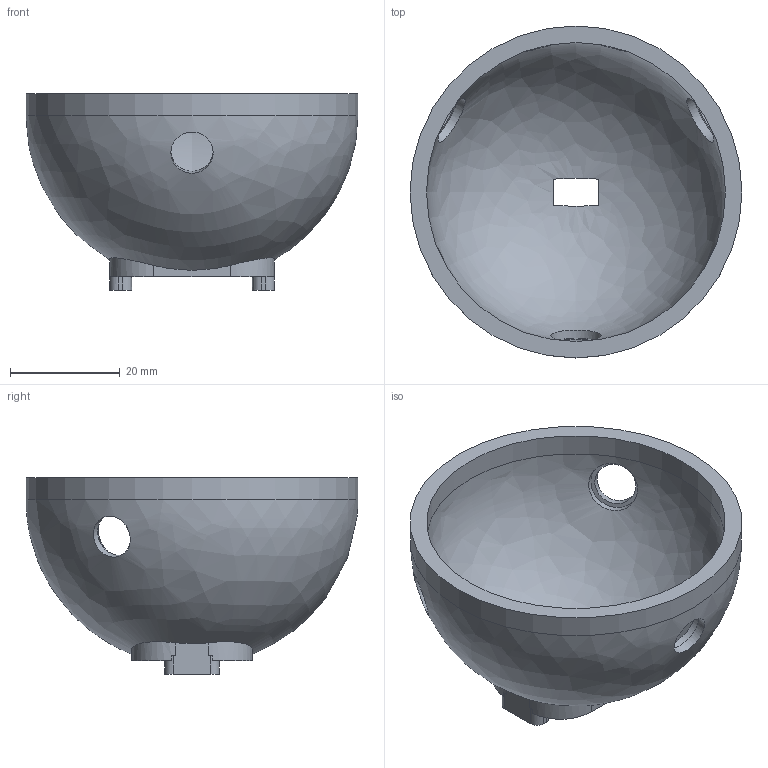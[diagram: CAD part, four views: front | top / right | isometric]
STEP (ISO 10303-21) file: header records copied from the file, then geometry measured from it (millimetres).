
FILE_DESCRIPTION(('Open CASCADE Model'),'2;1');
FILE_NAME('Open CASCADE Shape Model','2026-05-31T19:43:22',('Author'),( 'Open CASCADE'),'Open CASCADE STEP processor 7.6','Open CASCADE 7.6' ,'Unknown');
FILE_SCHEMA(('AP242_MANAGED_MODEL_BASED_3D_ENGINEERING_MIM_LF. {1 0 10303 442 1 1 4 }'));
Length unit declared in the file: millimetre
Products named in the file (1): Open CASCADE STEP translator 7.6 8
Bounding box: 60.5 x 60.5 x 35.85 mm (x, y, z)
Volume: 17490.9 mm3; surface area: 12777 mm2
Topology: 1 solids, 1 shells, 71 faces, 194 edges, 128 vertices
Faces by surface type: plane 35, cylinder 28, bspline 4, revolution 2, cone 2
Full cylindrical faces by diameter (mm): 2.05 x2, 7.7 x3, 9.2 x3, 54.5 x1, 60.5 x1
Entity records: 7918 total; most frequent: CARTESIAN_POINT 4100, DIRECTION 702, ORIENTED_EDGE 384, PCURVE 384, DEFINITIONAL_REPRESENTATION 384, LINE 382, VECTOR 382, EDGE_CURVE 192
